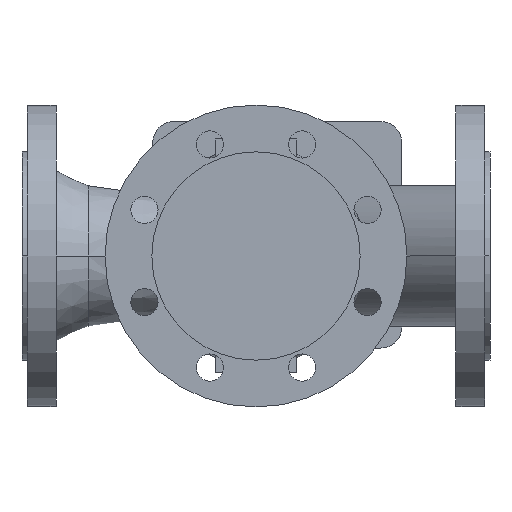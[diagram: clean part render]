
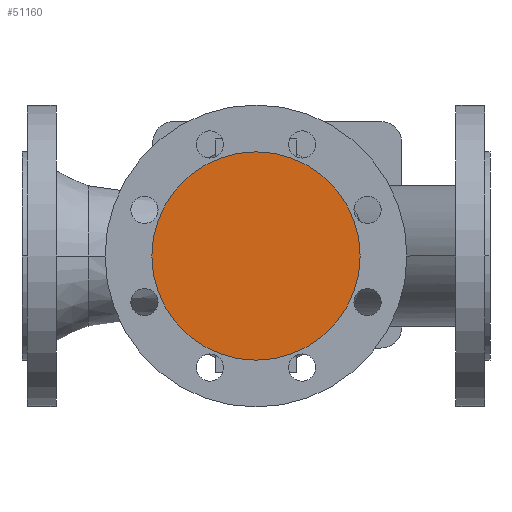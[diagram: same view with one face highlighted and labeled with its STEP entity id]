
A CAD part, front view. The second image highlights one B-rep face of the part: STEP entity #51160.
In plain terms, the highlighted planar face has unit normal (0, -1, 0).
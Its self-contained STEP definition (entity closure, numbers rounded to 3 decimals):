
#3390=CARTESIAN_POINT('',(224.,-130.,0.));
#3400=VERTEX_POINT('',#3390);
#3430=CARTESIAN_POINT('',(155.,-130.,0.));
#3440=DIRECTION('',(0.,1.,0.));
#3450=DIRECTION('',(1.,0.,0.));
#3460=AXIS2_PLACEMENT_3D('',#3430,#3440,#3450);
#3470=CIRCLE('',#3460,69.);
#3480=CARTESIAN_POINT('',(86.,-130.,0.));
#3490=VERTEX_POINT('',#3480);
#3500=EDGE_CURVE('',#3490,#3400,#3470,.T.);
#51060=CARTESIAN_POINT('',(189.5,-130.,0.));
#51070=DIRECTION('',(0.,-1.,0.));
#51080=DIRECTION('',(-1.,0.,0.));
#51090=AXIS2_PLACEMENT_3D('',#51060,#51070,#51080);
#51100=PLANE('',#51090);
#51110=ORIENTED_EDGE('',*,*,#3500,.F.);
#51120=EDGE_CURVE('',#3400,#3490,#3470,.T.);
#51130=ORIENTED_EDGE('',*,*,#51120,.F.);
#51140=EDGE_LOOP('',(#51130,#51110));
#51150=FACE_OUTER_BOUND('',#51140,.T.);
#51160=ADVANCED_FACE('',(#51150),#51100,.T.);
